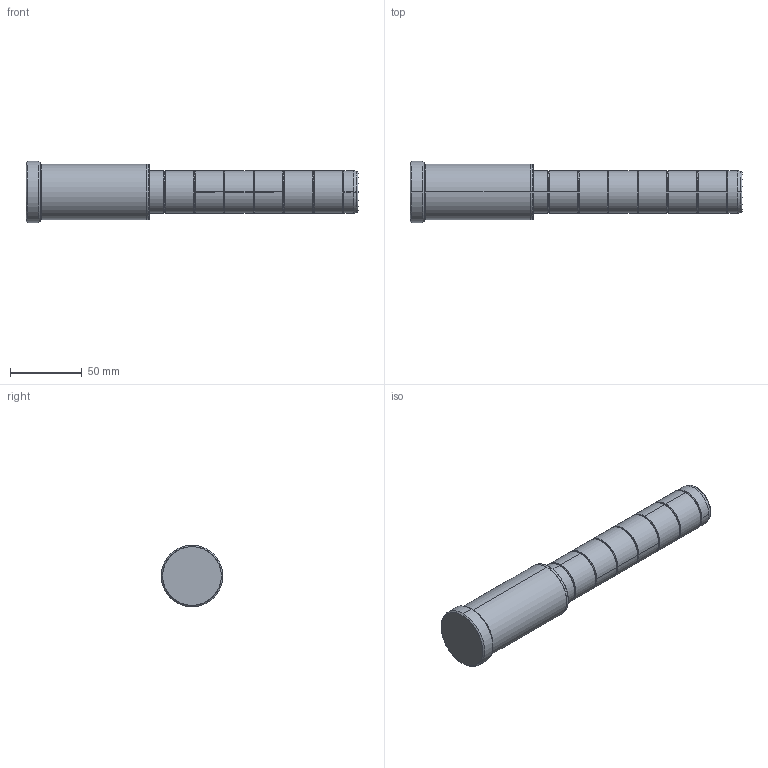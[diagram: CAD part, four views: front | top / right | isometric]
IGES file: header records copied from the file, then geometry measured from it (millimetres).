
Start section: SolidWorks IGES file using analytic representation for surfaces
Global section: file name: C:\Users\Dell\Desktop\deltakont\kontrol edilecekler\D02\Ø30\D02_30x86x146.IGS; native system: SolidWorks 2010; preprocessor: SolidWorks 2010; author: Dell; date: 111226.224128; units: millimetre
Bounding box: 232 x 43 x 43 mm (x, y, z)
Surface area: 27379.6 mm2 (no closed solid volume)
Topology: 0 solids, 0 shells, 72 faces, 871 edges, 871 vertices
Faces by surface type: bspline 38, revolution 34
